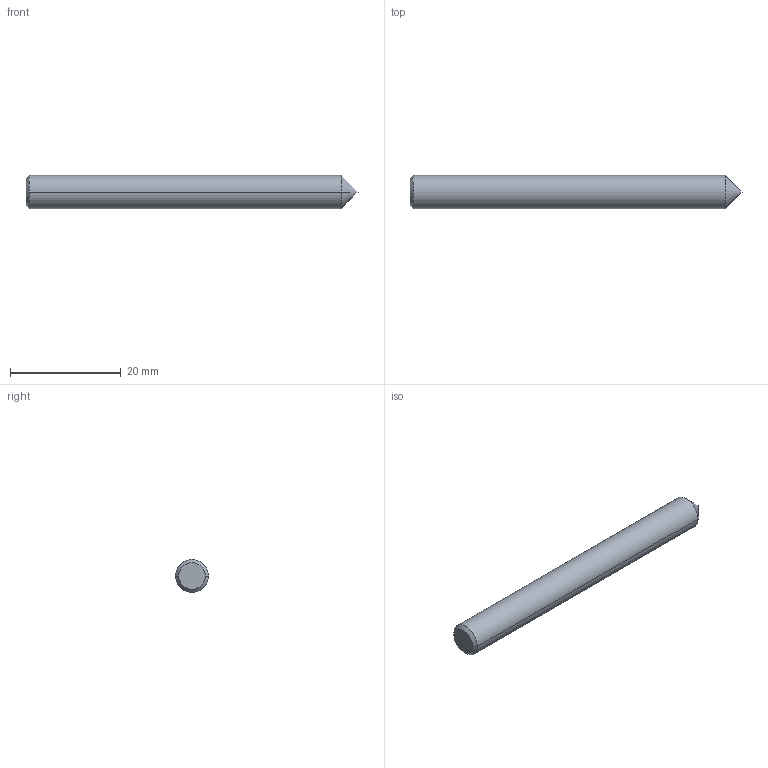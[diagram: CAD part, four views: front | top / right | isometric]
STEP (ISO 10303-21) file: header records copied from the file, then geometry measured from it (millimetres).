
FILE_DESCRIPTION (( 'STEP AP214' ), '1' );
FILE_NAME ('1878.STEP', '2021-06-07T07:35:06', ( '' ), ( '' ), 'SwSTEP 2.0', 'SolidWorks 2014', '' );
FILE_SCHEMA (( 'AUTOMOTIVE_DESIGN' ));
Length unit declared in the file: millimetre
Products named in the file (1): 1878
Bounding box: 60 x 6 x 6 mm (x, y, z)
Volume: 1636.7 mm3; surface area: 1192.1 mm2
Topology: 2 solids, 2 shells, 9 faces, 16 edges, 9 vertices
Faces by surface type: cone 4, plane 3, cylinder 2
Entity records: 328 total; most frequent: DIRECTION 42, CARTESIAN_POINT 33, ORIENTED_EDGE 28, AXIS2_PLACEMENT_3D 18, EDGE_CURVE 14, UNCERTAINTY_MEASURE_WITH_UNIT 11, MECHANICAL_DESIGN_GEOMETRIC_PRESENTATION_REPRESENTATION 10, PRESENTATION_STYLE_ASSIGNMENT 10
